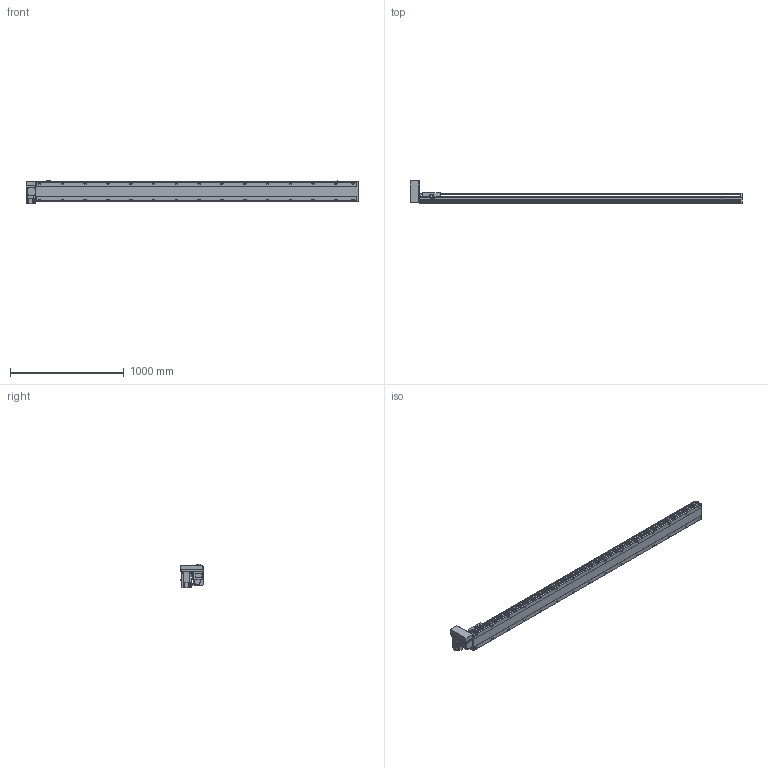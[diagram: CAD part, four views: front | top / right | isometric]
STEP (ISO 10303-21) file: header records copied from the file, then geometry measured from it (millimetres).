
FILE_DESCRIPTION( ( 'STEP AP214' ), '1' );
FILE_NAME( 'x:/temp/worker_5/temp/exporttempdir_3988_143_E2Pme/format_0/PBS170-P40-S2550-RU-T75-C1-N(0).stp', '2022-06-08T06:00:47', ( 'License CC BY-ND 4.0' ), ( 'CADENAS' ), ' ', 'PARTsolutions', ' ' );
FILE_SCHEMA( ( 'AUTOMOTIVE_DESIGN { 1 0 10303 214 1 1 1 1 }' ) );
Length unit declared in the file: millimetre
Products named in the file (7): PBS170-P40-S2550-RU-T75-C1-N(0); _PBS170-S2550()_body; _PBS170T-RU_motors; _T75-p1; _PBS170_sliser; _PBS170_plant; _PBS170_sensor
Assembly tree (8 placements, depth 2):
  PBS170-P40-S2550-RU-T75-C1-N(0)
    _PBS170-S2550()_body
    _PBS170T-RU_motors
    _T75-p1
    _PBS170_sliser
    _PBS170_plant
    _PBS170_sensor  x3
Bounding box: 2913 x 206 x 205.3 mm (x, y, z)
Volume: 22035219.2 mm3; surface area: 2772426.8 mm2
Topology: 8 solids, 8 shells, 1194 faces, 3155 edges, 2056 vertices
Faces by surface type: plane 729, cylinder 395, cone 60, sphere 8, torus 2
Full cylindrical faces by diameter (mm): 3.242 x4, 4 x2, 4.4 x4, 4.5 x6, 4.917 x4, 6 x9, 6.647 x38, 7 x2, 7.5 x4, 8 x8, 8.5 x30, 10 x4, 10.5 x30, 11 x2, 30 x2, 40 x1, 70 x1
Entity records: 44234 total; most frequent: CARTESIAN_POINT 7397, DIRECTION 5790, ORIENTED_EDGE 5448, EDGE_CURVE 2724, AXIS2_PLACEMENT_3D 2047, VERTEX_POINT 1898, LINE 1696, VECTOR 1696
